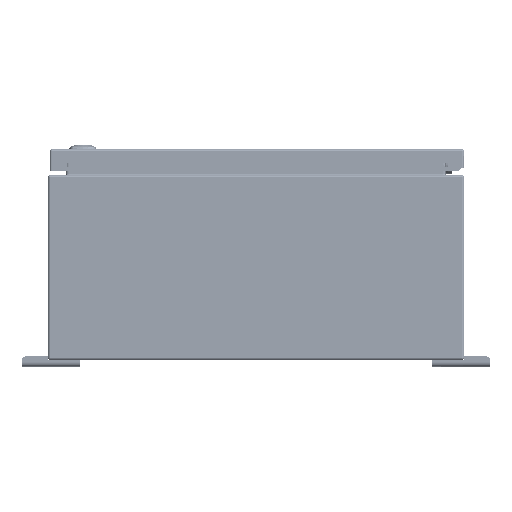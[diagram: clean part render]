
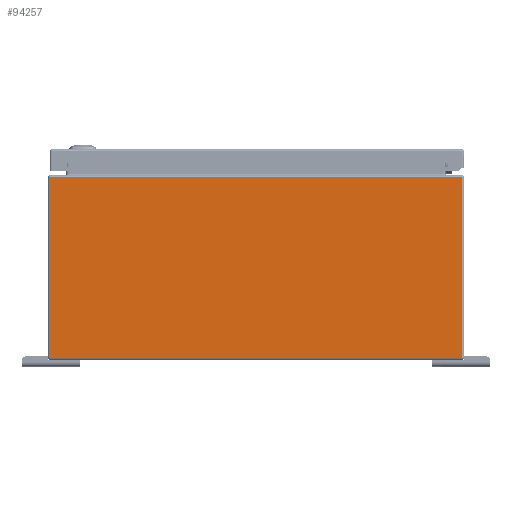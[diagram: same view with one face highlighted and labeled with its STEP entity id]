
A CAD part, left-side view. The second image highlights one B-rep face of the part: STEP entity #94257.
In plain terms, the highlighted planar face has unit normal (-1, 0, 0).
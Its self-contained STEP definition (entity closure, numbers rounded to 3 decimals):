
#5480=PLANE('',#101155);
#7926=LINE('',#134812,#15315);
#7927=LINE('',#134816,#15316);
#7928=LINE('',#134818,#15317);
#7929=LINE('',#134820,#15318);
#7930=LINE('',#134822,#15319);
#7931=LINE('',#134823,#15320);
#15315=VECTOR('',#110023,0.394);
#15316=VECTOR('',#110028,0.394);
#15317=VECTOR('',#110029,0.394);
#15318=VECTOR('',#110030,0.394);
#15319=VECTOR('',#110031,0.394);
#15320=VECTOR('',#110032,0.394);
#24181=FACE_OUTER_BOUND('',#29848,.T.);
#29848=EDGE_LOOP('',(#64009,#64010,#64011,#64012,#64013,#64014));
#39854=VERTEX_POINT('',#134794);
#39861=VERTEX_POINT('',#134811);
#39862=VERTEX_POINT('',#134815);
#39863=VERTEX_POINT('',#134817);
#39864=VERTEX_POINT('',#134819);
#39865=VERTEX_POINT('',#134821);
#49241=EDGE_CURVE('',#39854,#39861,#7926,.T.);
#49243=EDGE_CURVE('',#39862,#39854,#7927,.T.);
#49244=EDGE_CURVE('',#39862,#39863,#7928,.T.);
#49245=EDGE_CURVE('',#39864,#39863,#7929,.T.);
#49246=EDGE_CURVE('',#39865,#39864,#7930,.T.);
#49247=EDGE_CURVE('',#39865,#39861,#7931,.T.);
#64009=ORIENTED_EDGE('',*,*,#49243,.F.);
#64010=ORIENTED_EDGE('',*,*,#49244,.T.);
#64011=ORIENTED_EDGE('',*,*,#49245,.F.);
#64012=ORIENTED_EDGE('',*,*,#49246,.F.);
#64013=ORIENTED_EDGE('',*,*,#49247,.T.);
#64014=ORIENTED_EDGE('',*,*,#49241,.F.);
#94257=ADVANCED_FACE('',(#24181),#5480,.F.);
#101155=AXIS2_PLACEMENT_3D('',#134814,#110026,#110027);
#110023=DIRECTION('',(0.,0.,-1.));
#110026=DIRECTION('center_axis',(1.,0.,0.));
#110027=DIRECTION('ref_axis',(0.,0.,-1.));
#110028=DIRECTION('',(0.,-1.,0.));
#110029=DIRECTION('',(0.,1.,0.));
#110030=DIRECTION('',(0.,-1.,0.));
#110031=DIRECTION('',(0.,0.,1.));
#110032=DIRECTION('',(0.,-1.,0.));
#134794=CARTESIAN_POINT('',(-21.,-8.901,7.901));
#134811=CARTESIAN_POINT('',(-21.,-8.901,0.099));
#134812=CARTESIAN_POINT('',(-21.,-8.901,4.));
#134814=CARTESIAN_POINT('Origin',(-21.,0.,4.));
#134815=CARTESIAN_POINT('',(-21.,-8.126,7.901));
#134816=CARTESIAN_POINT('',(-21.,-4.475,7.901));
#134817=CARTESIAN_POINT('',(-21.,8.126,7.901));
#134818=CARTESIAN_POINT('',(-21.,4.455,7.901));
#134819=CARTESIAN_POINT('',(-21.,8.901,7.901));
#134820=CARTESIAN_POINT('',(-21.,-4.475,7.901));
#134821=CARTESIAN_POINT('',(-21.,8.901,0.099));
#134822=CARTESIAN_POINT('',(-21.,8.901,4.));
#134823=CARTESIAN_POINT('',(-21.,4.5,0.099));
